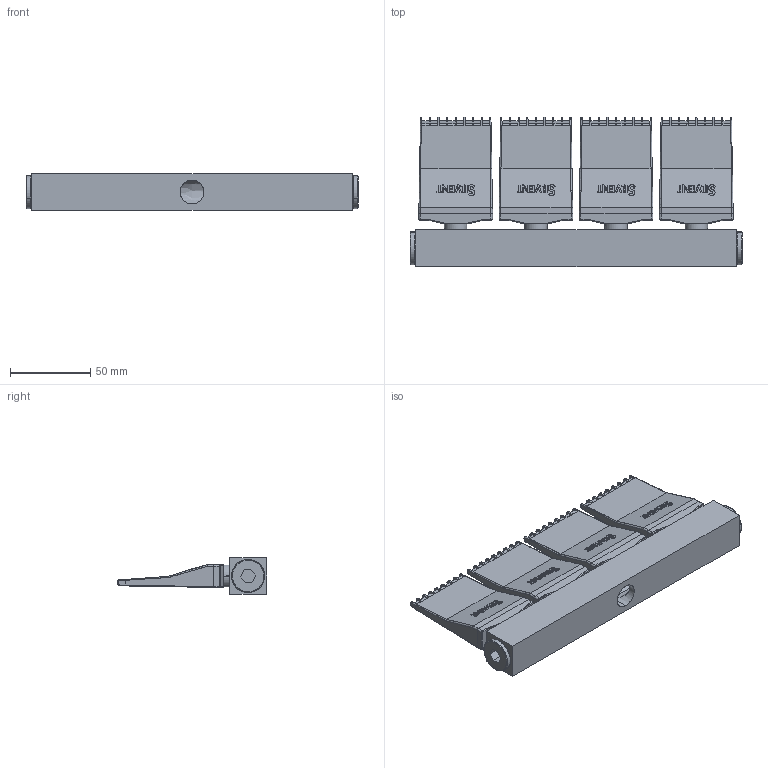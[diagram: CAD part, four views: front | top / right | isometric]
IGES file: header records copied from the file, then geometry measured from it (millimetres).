
Start section: SolidWorks IGES file using analytic representation for surfaces
Global section: file name: C:\Users\p.jaasko\Silvent\ENGINEERING - Documents\General\Drawings\WEB CAD\NEW CAD 2026\SILVENT_394.IGS; native system: SolidWorks 2021; preprocessor: SolidWorks 2021; author: p.jaasko; date: 250829.084143; units: millimetre
Bounding box: 207 x 93 x 23 mm (x, y, z)
Surface area: 65748.5 mm2 (no closed solid volume)
Topology: 0 solids, 0 shells, 1270 faces, 10324 edges, 10316 vertices
Faces by surface type: bspline 750, revolution 520
